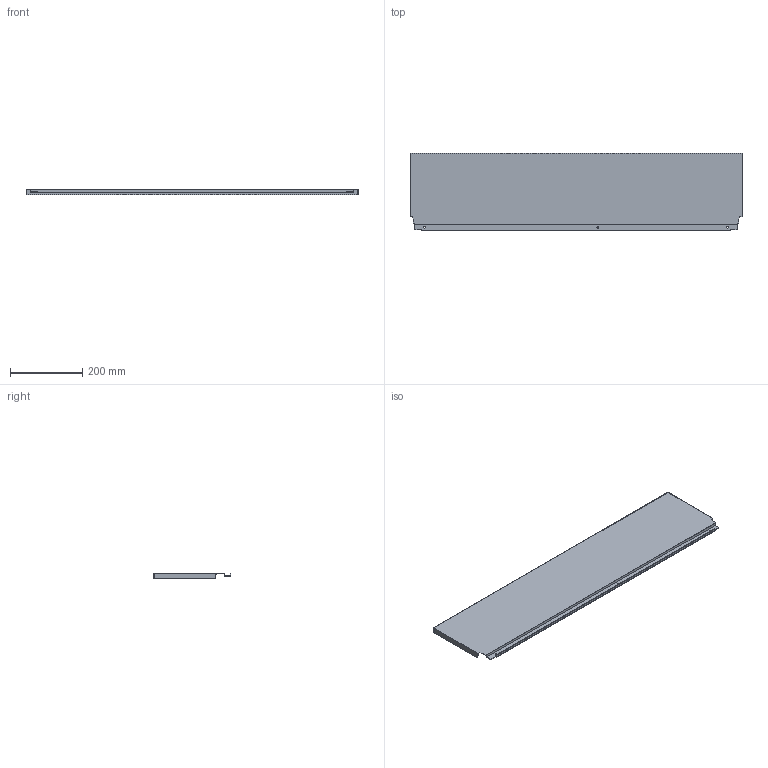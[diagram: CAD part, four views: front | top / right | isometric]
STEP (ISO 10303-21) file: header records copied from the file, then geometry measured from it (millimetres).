
FILE_DESCRIPTION (( 'STEP AP214' ), '1' );
FILE_NAME ('_DWD_XP Stahlrückwand_H214_KAB1000_S16.step', '2010-07-08T13:02:53', ( 'grass' ), ( '' ), 'SwSTEP 2.0', 'SolidWorks 2010', '' );
FILE_SCHEMA (( 'AUTOMOTIVE_DESIGN' ));
Length unit declared in the file: millimetre
Products named in the file (1): _DWD_XP Stahlrückwand_H214_KAB1000_S16
Bounding box: 917 x 214.58 x 16 mm (x, y, z)
Volume: 217316.7 mm3; surface area: 457787.8 mm2
Topology: 1 solids, 1 shells, 46 faces, 132 edges, 88 vertices
Faces by surface type: plane 40, cylinder 6
Entity records: 1534 total; most frequent: CARTESIAN_POINT 267, ORIENTED_EDGE 264, DIRECTION 238, EDGE_CURVE 132, LINE 120, VECTOR 120, VERTEX_POINT 88, AXIS2_PLACEMENT_3D 59
